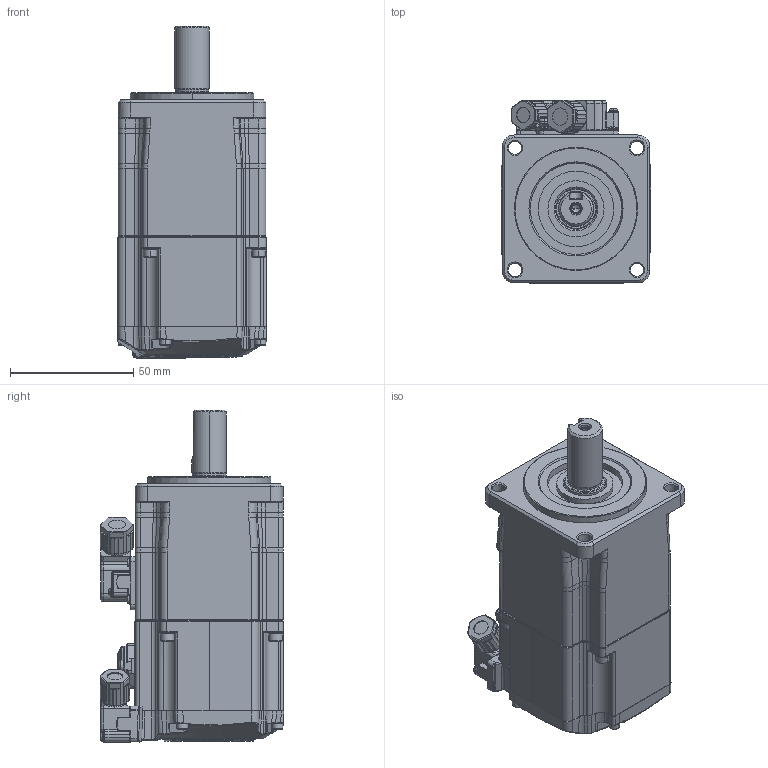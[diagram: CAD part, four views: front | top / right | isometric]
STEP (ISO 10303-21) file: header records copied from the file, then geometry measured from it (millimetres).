
FILE_DESCRIPTION((''),'2;1');
FILE_NAME('ECM-E3M-CX0602SBE_240408','2024-04-08T17:19:47',('SHIUNYI.LIN'),(''),'CREO PARAMETRIC BY PTC INC, 2020053','CREO PARAMETRIC BY PTC INC, 2020053','');
FILE_SCHEMA(('CONFIG_CONTROL_DESIGN'));
Products named in the file (1): ECM-E3M-CX0602SBE_240408
Bounding box: 60.6 x 74.4 x 134.7 mm (x, y, z)
Volume: 348608.2 mm3; surface area: 39029.1 mm2
Topology: 1 solids, 1 shells, 2511 faces, 6514 edges, 4046 vertices
Faces by surface type: plane 881, cylinder 777, torus 260, bspline 232, extrusion 218, cone 115, sphere 28
Entity records: 98697 total; most frequent: CARTESIAN_POINT 40464, ORIENTED_EDGE 12948, DIRECTION 10901, EDGE_CURVE 6474, VERTEX_POINT 4046, AXIS2_PLACEMENT_3D 3816, VECTOR 3269, LINE 3051
